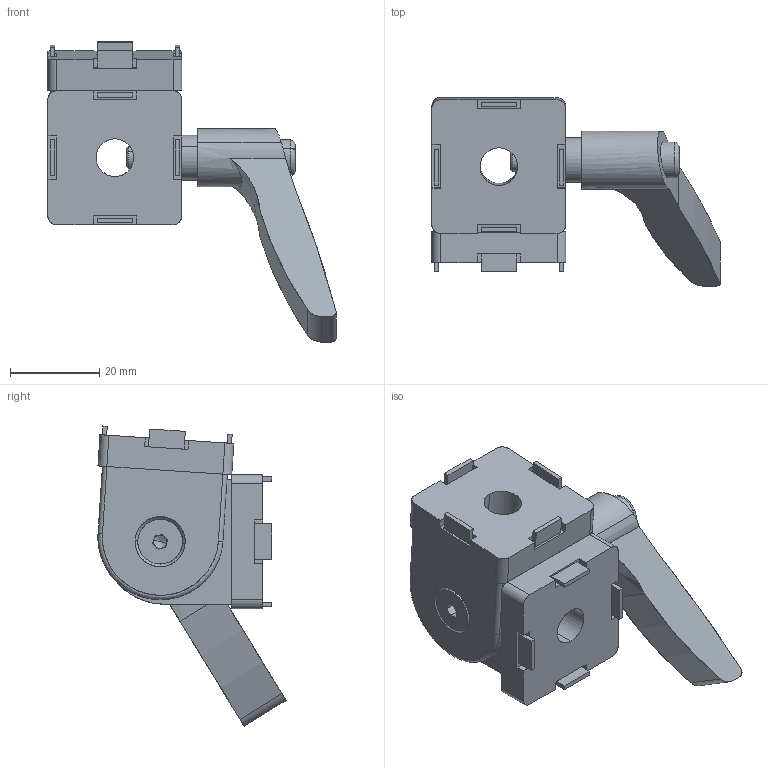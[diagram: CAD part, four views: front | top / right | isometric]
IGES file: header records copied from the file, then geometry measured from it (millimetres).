
Start section: SolidWorks IGES file using analytic representation for surfaces
Global section: file name: D:\LETROMEC CATALOGUE\SWIVEL JOINT\CP-SJ30X30H\CP-SJ30X30H.IGS; native system: SolidWorks 2013; preprocessor: SolidWorks 2013; author: User; date: 180316.203229; units: millimetre
Bounding box: 64.5 x 42.1 x 67.15 mm (x, y, z)
Surface area: 16744.7 mm2 (no closed solid volume)
Topology: 0 solids, 0 shells, 202 faces, 2218 edges, 2216 vertices
Faces by surface type: bspline 137, revolution 65
